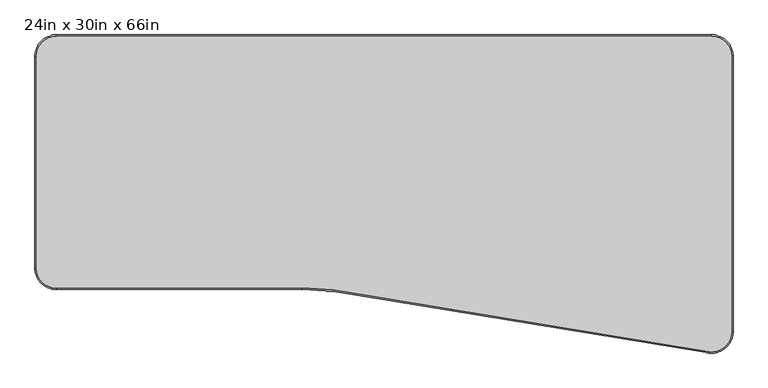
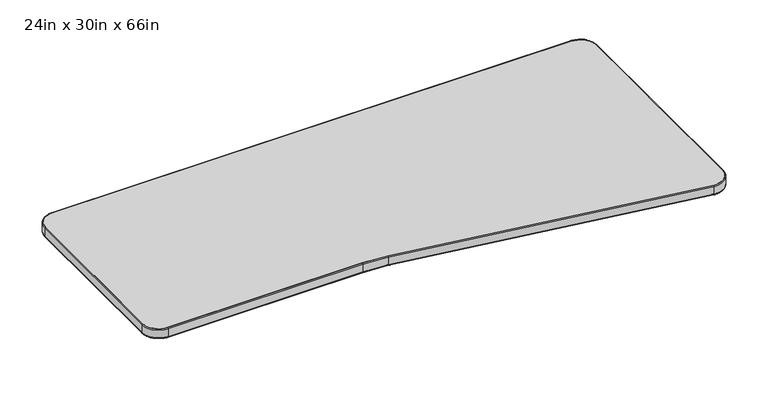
"""IFC4 building model written with IfcOpenShell, lengths in millimetres: furniture geometry, Steelcase - Answer Solution - Universal Table - Transition - Right : 24in x 30in x 66in."""

from ifc_helpers import new_model, si_unit, point, frame, frame_2d, origin, place, context, project, spatial, polyline, circle_curve, ellipse_curve, trimmed, segment, composite_curve, outline, extrude, source, transform, mapped, element, save
from ifc_brep_helpers import plane_surface, cylinder_surface, revolved_surface, advanced_brep


def furniture_24in_x_30in_x_66in_2a83a822(model_context):
    return source(origin(), model_context, "Body", "SolidModel", [
        extrude(outline(composite_curve([segment(polyline([(50.8000015, -3.0479999), (1619.25, -3.0479999)]), True, "CONTINUOUS"), segment(trimmed(circle_curve(frame_2d((1619.25, -50.8000271)), 47.7520271), [point((1619.25, -3.0479999))], [point((1667.0020271, -50.8000271))], False, "CARTESIAN"), True, "CONTINUOUS"), segment(polyline([(1667.0020271, -50.8000271), (1667.0020271, -711.1999758)]), True, "CONTINUOUS"), segment(trimmed(circle_curve(frame_2d((1619.167308, -711.4293394)), 47.835269), [point((1667.0020271, -711.1999758))], [point((1613.3376552, -758.9080515))], False, "CARTESIAN"), True, "CONTINUOUS"), segment(polyline([(1613.3376552, -758.9080515), (714.3280552, -611.0988184)]), True, "CONTINUOUS"), segment(trimmed(circle_curve(frame_2d((639.9393929, -1216.9458544)), 610.3968415), [point((714.3280552, -611.0988184))], [point((639.8259893, -606.5490234))], True, "CARTESIAN"), True, "CONTINUOUS"), segment(polyline([(639.8259893, -606.5490234), (50.8000015, -606.5490234)]), True, "CONTINUOUS"), segment(trimmed(circle_curve(frame_2d((50.8000015, -558.7970219)), 47.7520016), [point((50.8000015, -606.5490234))], [point((3.0479999, -558.7970219))], False, "CARTESIAN"), True, "CONTINUOUS"), segment(polyline([(3.0479999, -558.7970219), (3.0479999, -50.8000015)]), True, "CONTINUOUS"), segment(trimmed(circle_curve(frame_2d((50.8000015, -50.8000015)), 47.7520016), [point((3.0479999, -50.8000015))], [point((50.8000015, -3.0479999))], False, "CARTESIAN"), True, "CONTINUOUS")], self_intersect=False)), frame((0.0, 0.0, 668.274), z_axis=(0.0, 0.0, 1.0), x_axis=(1.0, 0.0, 0.0)), (0.0, 0.0, 1.0), 30.0481659),
        advanced_brep(
        [(714.3280552, -611.098818, 668.1439926), (639.8259893, -606.5490231, 668.1439926), (639.8259893, -606.5490231, 698.3221659), (714.3280552, -611.098818, 698.3221659), (713.9562346, -614.1270538, 671.19497), (639.8265562, -609.6000003, 671.19497), (713.9562346, -614.1270538, 695.2711886), (639.8265562, -609.6000003, 695.2711886), (1612.7104635, -758.8310417, 698.3221659), (1612.7104635, -758.8310417, 668.1439926), (1612.2154022, -761.841586, 671.19497), (1612.2154022, -761.841586, 695.2711886), (1667.0020268, -710.7979241, 668.1439926), (1667.0020268, -710.7979241, 698.3221659), (1670.0530041, -710.7979241, 671.19497), (1670.0530041, -710.7979241, 695.2711886), (1667.0020268, -50.8000271, 698.3221659), (1667.0020268, -50.8000271, 668.1439926), (1670.0530041, -50.8000271, 671.19497), (1670.0530041, -50.8000271, 695.2711886), (1619.25, -3.0480003, 668.1439926), (1619.25, -3.0480003, 698.3221659), (1619.25, 0.002977, 671.19497), (1619.25, 0.002977, 695.2711886), (50.8000015, -3.0480003, 698.3221659), (50.8000015, -3.0480003, 668.1439926), (50.8000015, 0.002977, 671.19497), (50.8000015, 0.002977, 695.2711886), (3.0480003, -50.8000015, 668.1439926), (3.0480003, -50.8000015, 698.3221659), (-0.002977, -50.8000015, 671.19497), (-0.002977, -50.8000015, 695.2711886), (3.0480003, -558.7970219, 698.3221659), (3.0480003, -558.7970219, 668.1439926), (-0.002977, -558.7970219, 671.19497), (-0.002977, -558.7970219, 695.2711886), (50.8000015, -606.5490231, 668.1439926), (50.8000015, -606.5490231, 698.3221659), (50.8000015, -609.6000004, 671.19497), (50.8000015, -609.6000004, 695.2711886)],
        [
            (0, 1, circle_curve(frame((639.9393929, -1216.9458543, 668.1439926), z_axis=(0.0, 0.0, 1.0), x_axis=(-0.00018578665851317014, 0.9999999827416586, 0.0)), 610.3968418)),
            (1, 2),
            (2, 3, circle_curve(frame((639.9393929, -1216.9458543, 698.3221659), z_axis=(0.0, 0.0, -1.0), x_axis=(-0.00018578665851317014, 0.9999999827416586, 0.0)), 610.3968418)),
            (3, 0),
            (4, 5, circle_curve(frame((639.9393929, -1216.9458543, 671.19497), z_axis=(0.0, 0.0, 1.0), x_axis=(-0.00018578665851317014, 0.9999999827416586, 0.0)), 607.3458645)),
            (5, 1, circle_curve(frame((639.8259893, -606.5490231, 671.19497), z_axis=(0.9999999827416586, 0.00018578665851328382, 0.0), x_axis=(-0.00018578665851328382, 0.9999999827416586, 0.0)), 3.0509773)),
            (0, 4, circle_curve(frame((714.3280552, -611.098818, 671.19497), z_axis=(-0.9925461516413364, 0.12186934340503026, 0.0), x_axis=(0.12186934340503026, 0.9925461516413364, 0.0)), 3.0509773)),
            (6, 7, circle_curve(frame((639.9393929, -1216.9458543, 695.2711886), z_axis=(0.0, 0.0, 1.0), x_axis=(-0.00018578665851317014, 0.9999999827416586, 0.0)), 607.3458645)),
            (7, 5),
            (4, 6),
            (2, 7, circle_curve(frame((639.8259893, -606.5490231, 695.2711886), z_axis=(0.9999999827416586, 0.00018578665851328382, 0.0), x_axis=(-0.00018578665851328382, 0.9999999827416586, 0.0)), 3.0509773)),
            (6, 3, circle_curve(frame((714.3280552, -611.098818, 695.2711886), z_axis=(-0.9925461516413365, 0.12186934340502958, 0.0), x_axis=(0.12186934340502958, 0.9925461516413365, 0.0)), 3.0509773)),
            (3, 8),
            (8, 9),
            (9, 0),
            (9, 10, circle_curve(frame((1612.7104635, -758.8310417, 671.19497), z_axis=(-0.986747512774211, 0.16226319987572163, 0.0), x_axis=(0.16226319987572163, 0.986747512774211, 0.0)), 3.0509773)),
            (10, 4),
            (10, 11),
            (11, 6),
            (11, 8, circle_curve(frame((1612.7104635, -758.8310417, 695.2711886), z_axis=(-0.986747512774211, 0.16226319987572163, 0.0), x_axis=(0.16226319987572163, 0.986747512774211, 0.0)), 3.0509773)),
            (12, 9, circle_curve(frame((1618.6081888, -710.7979241, 668.1439926), z_axis=(0.0, 0.0, -1.0), x_axis=(-0.1218693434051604, -0.9925461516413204, 0.0)), 48.393838)),
            (8, 13, circle_curve(frame((1618.6081888, -710.7979241, 698.3221659), z_axis=(0.0, 0.0, 1.0), x_axis=(-0.1218693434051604, -0.9925461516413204, 0.0)), 48.393838)),
            (13, 12),
            (14, 10, circle_curve(frame((1618.6081888, -710.7979241, 671.19497), z_axis=(0.0, 0.0, -1.0), x_axis=(-0.1218693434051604, -0.9925461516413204, 0.0)), 51.4448153)),
            (12, 14, circle_curve(frame((1667.0020268, -710.7979241, 671.19497), z_axis=(0.0, -1.0, 0.0), x_axis=(-1.0, 0.0, 0.0)), 3.0509773)),
            (15, 11, circle_curve(frame((1618.6081888, -710.7979241, 695.2711886), z_axis=(0.0, 0.0, -1.0), x_axis=(-0.1218693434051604, -0.9925461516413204, 0.0)), 51.4448153)),
            (14, 15),
            (15, 13, circle_curve(frame((1667.0020268, -710.7979241, 695.2711886), z_axis=(0.0, -1.0, 0.0), x_axis=(-1.0, 0.0, 0.0)), 3.0509773)),
            (13, 16),
            (16, 17),
            (17, 12),
            (17, 18, circle_curve(frame((1667.0020268, -50.8000271, 671.19497), z_axis=(0.0, -1.0, 0.0), x_axis=(-1.0, 0.0, 0.0)), 3.0509773)),
            (18, 14),
            (18, 19),
            (19, 15),
            (19, 16, circle_curve(frame((1667.0020268, -50.8000271, 695.2711886), z_axis=(0.0, -1.0, 0.0), x_axis=(-1.0, 0.0, 0.0)), 3.0509773)),
            (20, 17, circle_curve(frame((1619.25, -50.8000271, 668.1439926), z_axis=(0.0, 0.0, -1.0), x_axis=(1.0, 0.0, 0.0)), 47.7520268)),
            (16, 21, circle_curve(frame((1619.25, -50.8000271, 698.3221659), z_axis=(0.0, 0.0, 1.0), x_axis=(1.0, 0.0, 0.0)), 47.7520268)),
            (21, 20),
            (22, 18, circle_curve(frame((1619.25, -50.8000271, 671.19497), z_axis=(0.0, 0.0, -1.0), x_axis=(1.0, 0.0, 0.0)), 50.8030041)),
            (20, 22, circle_curve(frame((1619.25, -3.0480003, 671.19497), z_axis=(1.0, 0.0, 0.0), x_axis=(0.0, -1.0, 0.0)), 3.0509773)),
            (23, 19, circle_curve(frame((1619.25, -50.8000271, 695.2711886), z_axis=(0.0, 0.0, -1.0), x_axis=(1.0, 0.0, 0.0)), 50.8030041)),
            (22, 23),
            (23, 21, circle_curve(frame((1619.25, -3.0480003, 695.2711886), z_axis=(1.0, 0.0, 0.0), x_axis=(0.0, -1.0, 0.0)), 3.0509773)),
            (21, 24),
            (24, 25),
            (25, 20),
            (25, 26, circle_curve(frame((50.8000015, -3.0480003, 671.19497), z_axis=(1.0, 0.0, 0.0), x_axis=(0.0, -1.0, 0.0)), 3.0509773)),
            (26, 22),
            (26, 27),
            (27, 23),
            (27, 24, circle_curve(frame((50.8000015, -3.0480003, 695.2711886), z_axis=(1.0, 0.0, 0.0), x_axis=(0.0, -1.0, 0.0)), 3.0509773)),
            (28, 25, circle_curve(frame((50.8000015, -50.8000015, 668.1439926), z_axis=(0.0, 0.0, -1.0), x_axis=(0.0, 1.0, 0.0)), 47.7520012)),
            (24, 29, circle_curve(frame((50.8000015, -50.8000015, 698.3221659), z_axis=(0.0, 0.0, 1.0), x_axis=(0.0, 1.0, 0.0)), 47.7520012)),
            (29, 28),
            (30, 26, circle_curve(frame((50.8000015, -50.8000015, 671.19497), z_axis=(0.0, 0.0, -1.0), x_axis=(0.0, 1.0, 0.0)), 50.8029785)),
            (28, 30, circle_curve(frame((3.0480003, -50.8000015, 671.19497), z_axis=(0.0, 1.0, 0.0), x_axis=(1.0, 0.0, 0.0)), 3.0509773)),
            (31, 27, circle_curve(frame((50.8000015, -50.8000015, 695.2711886), z_axis=(0.0, 0.0, -1.0), x_axis=(0.0, 1.0, 0.0)), 50.8029785)),
            (30, 31),
            (31, 29, circle_curve(frame((3.0480003, -50.8000015, 695.2711886), z_axis=(0.0, 1.0, 0.0), x_axis=(1.0, 0.0, 0.0)), 3.0509773)),
            (29, 32),
            (32, 33),
            (33, 28),
            (33, 34, circle_curve(frame((3.0480003, -558.7970219, 671.19497), z_axis=(0.0, 1.0, 0.0), x_axis=(1.0, 0.0, 0.0)), 3.0509773)),
            (34, 30),
            (34, 35),
            (35, 31),
            (35, 32, circle_curve(frame((3.0480003, -558.7970219, 695.2711886), z_axis=(0.0, 1.0, 0.0), x_axis=(1.0, 0.0, 0.0)), 3.0509773)),
            (36, 33, circle_curve(frame((50.8000015, -558.7970219, 668.1439926), z_axis=(0.0, 0.0, -1.0), x_axis=(-1.0, 0.0, 0.0)), 47.7520012)),
            (32, 37, circle_curve(frame((50.8000015, -558.7970219, 698.3221659), z_axis=(0.0, 0.0, 1.0), x_axis=(-1.0, 0.0, 0.0)), 47.7520012)),
            (37, 36),
            (38, 34, circle_curve(frame((50.8000015, -558.7970219, 671.19497), z_axis=(0.0, 0.0, -1.0), x_axis=(-1.0, 0.0, 0.0)), 50.8029785)),
            (36, 38, circle_curve(frame((50.8000015, -606.5490231, 671.19497), z_axis=(-1.0, 0.0, 0.0), x_axis=(0.0, 1.0, 0.0)), 3.0509773)),
            (39, 35, circle_curve(frame((50.8000015, -558.7970219, 695.2711886), z_axis=(0.0, 0.0, -1.0), x_axis=(-1.0, 0.0, 0.0)), 50.8029785)),
            (38, 39),
            (39, 37, circle_curve(frame((50.8000015, -606.5490231, 695.2711886), z_axis=(-1.0, 0.0, 0.0), x_axis=(0.0, 1.0, 0.0)), 3.0509773)),
            (37, 2),
            (1, 36),
            (5, 38),
            (7, 39),
        ],
        [
            cylinder_surface(frame((639.9393929, -1216.9458543, 0.0), z_axis=(0.0, 0.0, -1.0), x_axis=(-0.00018578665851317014, 0.9999999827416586, 0.0)), 610.3968418),
            revolved_surface(trimmed(ellipse_curve(frame((639.8259893, -606.5490231, 671.19497), z_axis=(-0.9999999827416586, -0.00018578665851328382, 0.0), x_axis=(-0.00018578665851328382, 0.9999999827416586, 0.0)), 3.0509773, 3.0509773), [point((639.8259893, -606.5490231, 668.1439926))], [point((639.8265562, -609.6000003, 671.19497))], True, "CARTESIAN"), (639.9393929, -1216.9458543, 0.0), (0.0, 0.0, -1.0)),
            revolved_surface(polyline([(639.8265561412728, -609.6000002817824, 671.19497), (639.8265561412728, -609.6000002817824, 695.2711886)]), (639.9393929, -1216.9458543, 0.0), (0.0, 0.0, -1.0)),
            revolved_surface(trimmed(ellipse_curve(frame((639.8259893, -606.5490231, 695.2711886), z_axis=(-0.9999999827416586, -0.00018578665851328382, 0.0), x_axis=(-0.00018578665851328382, 0.9999999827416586, 0.0)), 3.0509773, 3.0509773), [point((639.8265562, -609.6000003, 695.2711886))], [point((639.8259893, -606.5490231, 698.3221659))], True, "CARTESIAN"), (639.9393929, -1216.9458543, 0.0), (0.0, 0.0, -1.0)),
            plane_surface(frame((714.3280552, -611.098818, 698.3221659), z_axis=(0.16226319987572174, 0.986747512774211, 0.0), x_axis=(0.986747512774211, -0.16226319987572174, 0.0))),
            cylinder_surface(frame((714.3280553, -611.098818, 671.19497), z_axis=(-0.986747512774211, 0.16226319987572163, 0.0), x_axis=(0.16226319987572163, 0.986747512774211, 0.0)), 3.0509773),
            plane_surface(frame((713.9559248, -614.1295774, 671.19497), z_axis=(-0.16226319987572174, -0.986747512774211, 0.0), x_axis=(0.986747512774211, -0.16226319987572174, 0.0))),
            cylinder_surface(frame((714.3280553, -611.098818, 695.2711886), z_axis=(-0.986747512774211, 0.16226319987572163, 0.0), x_axis=(0.16226319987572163, 0.986747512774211, 0.0)), 3.0509773),
            revolved_surface(polyline([(1612.7104635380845, -758.8310417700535, 698.3221659), (1612.7104635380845, -758.8310417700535, 668.1439926)]), (1618.6081888, -710.7979241, 0.0), (0.0, 0.0, 1.0)),
            revolved_surface(trimmed(ellipse_curve(frame((1612.7104635, -758.8310417, 671.19497), z_axis=(-0.9925461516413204, 0.12186934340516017, 0.0), x_axis=(0.12186934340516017, 0.9925461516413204, 0.0)), 3.0509773, 3.0509773), [point((1612.7104635, -758.8310417, 668.1439926))], [point((1612.3386429, -761.8592775, 671.19497))], True, "CARTESIAN"), (1618.6081888, -710.7979241, 0.0), (0.0, 0.0, 1.0)),
            cylinder_surface(frame((1618.6081888, -710.7979241, 0.0), z_axis=(0.0, 0.0, 1.0), x_axis=(-0.1218693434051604, -0.9925461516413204, 0.0)), 51.4448153),
            revolved_surface(trimmed(ellipse_curve(frame((1612.7104635, -758.8310417, 695.2711886), z_axis=(-0.9925461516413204, 0.12186934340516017, 0.0), x_axis=(0.12186934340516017, 0.9925461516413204, 0.0)), 3.0509773, 3.0509773), [point((1612.3386429, -761.8592775, 695.2711886))], [point((1612.7104635, -758.8310417, 698.3221659))], True, "CARTESIAN"), (1618.6081888, -710.7979241, 0.0), (0.0, 0.0, 1.0)),
            plane_surface(frame((1667.0020268, -710.7979241, 698.3221659), z_axis=(-1.0, 0.0, 0.0), x_axis=(0.0, 1.0, 0.0))),
            cylinder_surface(frame((1667.0020268, -710.7979241, 671.19497), z_axis=(0.0, -1.0, 0.0), x_axis=(-1.0, 0.0, 0.0)), 3.0509773),
            plane_surface(frame((1670.0530041, -710.7979241, 671.19497), z_axis=(1.0, 0.0, 0.0), x_axis=(0.0, 1.0, 0.0))),
            cylinder_surface(frame((1667.0020268, -710.7979241, 695.2711886), z_axis=(0.0, -1.0, 0.0), x_axis=(-1.0, 0.0, 0.0)), 3.0509773),
            revolved_surface(polyline([(1667.0020268, -50.8000271, 698.3221659), (1667.0020268, -50.8000271, 668.1439926)]), (1619.25, -50.8000271, 0.0), (0.0, 0.0, 1.0)),
            revolved_surface(trimmed(ellipse_curve(frame((1667.0020268, -50.8000271, 671.19497), z_axis=(0.0, -1.0, 0.0), x_axis=(-1.0, 0.0, 0.0)), 3.0509773, 3.0509773), [point((1667.0020268, -50.8000271, 668.1439926))], [point((1670.0530041, -50.8000271, 671.19497))], True, "CARTESIAN"), (1619.25, -50.8000271, 0.0), (0.0, 0.0, 1.0)),
            cylinder_surface(frame((1619.25, -50.8000271, 0.0), z_axis=(0.0, 0.0, 1.0), x_axis=(1.0, 0.0, 0.0)), 50.8030041),
            revolved_surface(trimmed(ellipse_curve(frame((1667.0020268, -50.8000271, 695.2711886), z_axis=(0.0, -1.0, 0.0), x_axis=(-1.0, 0.0, 0.0)), 3.0509773, 3.0509773), [point((1670.0530041, -50.8000271, 695.2711886))], [point((1667.0020268, -50.8000271, 698.3221659))], True, "CARTESIAN"), (1619.25, -50.8000271, 0.0), (0.0, 0.0, 1.0)),
            plane_surface(frame((1619.25, -3.0480003, 698.3221659), z_axis=(0.0, -1.0, 0.0), x_axis=(-1.0, 0.0, 0.0))),
            cylinder_surface(frame((1619.25, -3.0480003, 671.19497), z_axis=(1.0, 0.0, 0.0), x_axis=(0.0, -1.0, 0.0)), 3.0509773),
            plane_surface(frame((1619.25, 0.002977, 671.19497), z_axis=(0.0, 1.0, 0.0), x_axis=(-1.0, 0.0, 0.0))),
            cylinder_surface(frame((1619.25, -3.0480003, 695.2711886), z_axis=(1.0, 0.0, 0.0), x_axis=(0.0, -1.0, 0.0)), 3.0509773),
            revolved_surface(polyline([(50.8000015, -3.048000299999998, 698.3221659), (50.8000015, -3.048000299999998, 668.1439926)]), (50.8000015, -50.8000015, 0.0), (0.0, 0.0, 1.0)),
            revolved_surface(trimmed(ellipse_curve(frame((50.8000015, -3.0480003, 671.19497), z_axis=(1.0, 0.0, 0.0), x_axis=(0.0, -1.0, 0.0)), 3.0509773, 3.0509773), [point((50.8000015, -3.0480003, 668.1439926))], [point((50.8000015, 0.002977, 671.19497))], True, "CARTESIAN"), (50.8000015, -50.8000015, 0.0), (0.0, 0.0, 1.0)),
            cylinder_surface(frame((50.8000015, -50.8000015, 0.0), z_axis=(0.0, 0.0, 1.0), x_axis=(0.0, 1.0, 0.0)), 50.8029785),
            revolved_surface(trimmed(ellipse_curve(frame((50.8000015, -3.0480003, 695.2711886), z_axis=(1.0, 0.0, 0.0), x_axis=(0.0, -1.0, 0.0)), 3.0509773, 3.0509773), [point((50.8000015, 0.002977, 695.2711886))], [point((50.8000015, -3.0480003, 698.3221659))], True, "CARTESIAN"), (50.8000015, -50.8000015, 0.0), (0.0, 0.0, 1.0)),
            plane_surface(frame((3.0480003, -50.8000015, 698.3221659), z_axis=(1.0, 0.0, 0.0), x_axis=(0.0, -1.0, 0.0))),
            cylinder_surface(frame((3.0480003, -50.8000015, 671.19497), z_axis=(0.0, 1.0, 0.0), x_axis=(1.0, 0.0, 0.0)), 3.0509773),
            plane_surface(frame((-0.002977, -50.8000015, 671.19497), z_axis=(-1.0, 0.0, 0.0), x_axis=(0.0, -1.0, 0.0))),
            cylinder_surface(frame((3.0480003, -50.8000015, 695.2711886), z_axis=(0.0, 1.0, 0.0), x_axis=(1.0, 0.0, 0.0)), 3.0509773),
            revolved_surface(polyline([(3.048000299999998, -558.7970219, 698.3221659), (3.048000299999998, -558.7970219, 668.1439926)]), (50.8000015, -558.7970219, 0.0), (0.0, 0.0, 1.0)),
            revolved_surface(trimmed(ellipse_curve(frame((3.0480003, -558.7970219, 671.19497), z_axis=(0.0, 1.0, 0.0), x_axis=(1.0, 0.0, 0.0)), 3.0509773, 3.0509773), [point((3.0480003, -558.7970219, 668.1439926))], [point((-0.002977, -558.7970219, 671.19497))], True, "CARTESIAN"), (50.8000015, -558.7970219, 0.0), (0.0, 0.0, 1.0)),
            cylinder_surface(frame((50.8000015, -558.7970219, 0.0), z_axis=(0.0, 0.0, 1.0), x_axis=(-1.0, 0.0, 0.0)), 50.8029785),
            revolved_surface(trimmed(ellipse_curve(frame((3.0480003, -558.7970219, 695.2711886), z_axis=(0.0, 1.0, 0.0), x_axis=(1.0, 0.0, 0.0)), 3.0509773, 3.0509773), [point((-0.002977, -558.7970219, 695.2711886))], [point((3.0480003, -558.7970219, 698.3221659))], True, "CARTESIAN"), (50.8000015, -558.7970219, 0.0), (0.0, 0.0, 1.0)),
            plane_surface(frame((50.8000015, -606.5490231, 698.3221659), z_axis=(0.0, 1.0, 0.0), x_axis=(1.0, 0.0, 0.0))),
            cylinder_surface(frame((50.8000015, -606.5490231, 671.19497), z_axis=(-1.0, 0.0, 0.0), x_axis=(0.0, 1.0, 0.0)), 3.0509773),
            plane_surface(frame((50.8000015, -609.6000004, 671.19497), z_axis=(0.0, -1.0, 0.0), x_axis=(1.0, 0.0, 0.0))),
            cylinder_surface(frame((50.8000015, -606.5490231, 695.2711886), z_axis=(-1.0, 0.0, 0.0), x_axis=(0.0, 1.0, 0.0)), 3.0509773),
        ],
        [
            (0, [[1, 2, 3, 4]]),
            (1, [[5, 6, -1, 7]]),
            (2, [[8, 9, -5, 10]]),
            (3, [[-3, 11, -8, 12]]),
            (4, [[-4, 13, 14, 15]]),
            (5, [[-7, -15, 16, 17]]),
            (6, [[-10, -17, 18, 19]]),
            (7, [[-12, -19, 20, -13]]),
            (8, [[21, -14, 22, 23]]),
            (9, [[24, -16, -21, 25]]),
            (10, [[26, -18, -24, 27]]),
            (11, [[-22, -20, -26, 28]]),
            (12, [[-23, 29, 30, 31]]),
            (13, [[-25, -31, 32, 33]]),
            (14, [[-27, -33, 34, 35]]),
            (15, [[-28, -35, 36, -29]]),
            (16, [[37, -30, 38, 39]]),
            (17, [[40, -32, -37, 41]]),
            (18, [[42, -34, -40, 43]]),
            (19, [[-38, -36, -42, 44]]),
            (20, [[-39, 45, 46, 47]]),
            (21, [[-41, -47, 48, 49]]),
            (22, [[-43, -49, 50, 51]]),
            (23, [[-44, -51, 52, -45]]),
            (24, [[53, -46, 54, 55]]),
            (25, [[56, -48, -53, 57]]),
            (26, [[58, -50, -56, 59]]),
            (27, [[-54, -52, -58, 60]]),
            (28, [[-55, 61, 62, 63]]),
            (29, [[-57, -63, 64, 65]]),
            (30, [[-59, -65, 66, 67]]),
            (31, [[-60, -67, 68, -61]]),
            (32, [[69, -62, 70, 71]]),
            (33, [[72, -64, -69, 73]]),
            (34, [[74, -66, -72, 75]]),
            (35, [[-70, -68, -74, 76]]),
            (36, [[-71, 77, -2, 78]]),
            (37, [[-73, -78, -6, 79]]),
            (38, [[-75, -79, -9, 80]]),
            (39, [[-76, -80, -11, -77]]),
        ],
    ),
    ])


if __name__ == "__main__":
    model = new_model("IFC4")
    model_context = context("Model", 3, world=origin())
    ifc_project = project(units=[si_unit("LENGTHUNIT", "METRE", prefix="MILLI")], contexts=[model_context])
    site = spatial("IfcSite", under=ifc_project)
    building = spatial("IfcBuilding", under=site)
    placement = place(None, origin())
    furniture_24in_x_30in_x_66in_shape = furniture_24in_x_30in_x_66in_2a83a822(model_context)
    element("IfcFurniture", 1, ObjectType="Steelcase - Answer Solution - Universal Table - Transition - Right : 24in x 30in x 66in", at=placement, inside=building, context=model_context, shape_type="MappedRepresentation", body=[
        mapped(furniture_24in_x_30in_x_66in_shape, transform((0.0, 0.0, 0.0), x_axis=(1.0, 0.0, 0.0), y_axis=(0.0, 1.0, 0.0), z_axis=(0.0, 0.0, 1.0))),
    ])
    save(model, "model.ifc")
